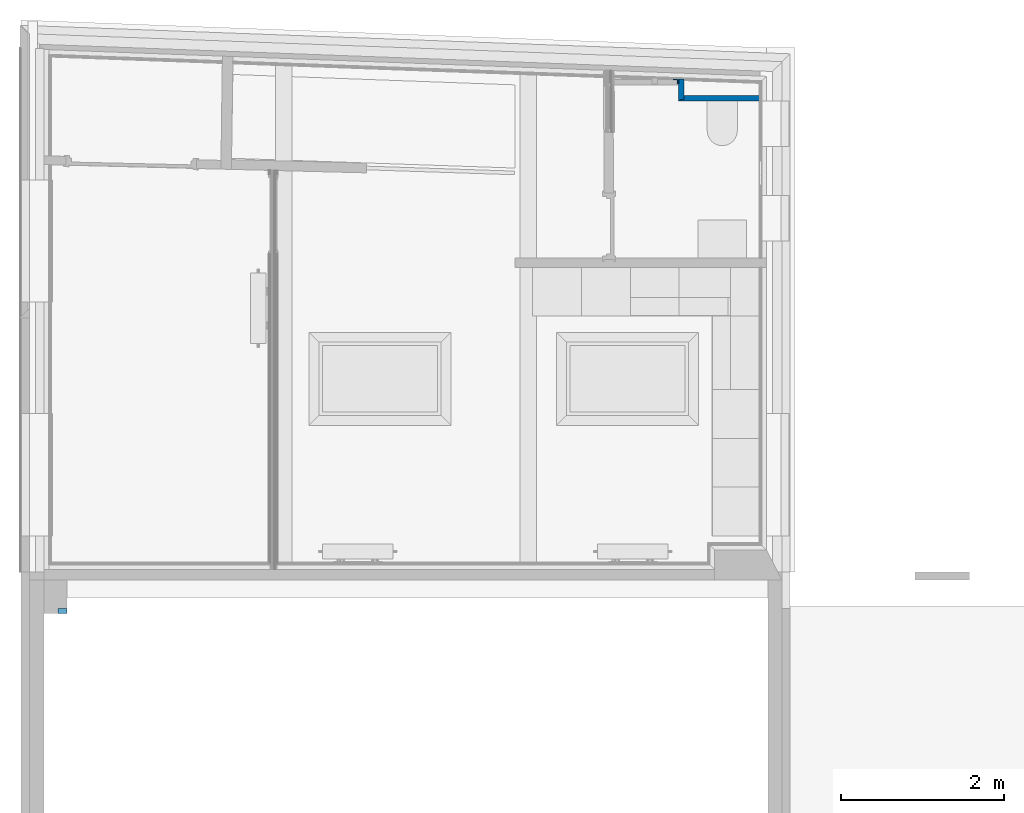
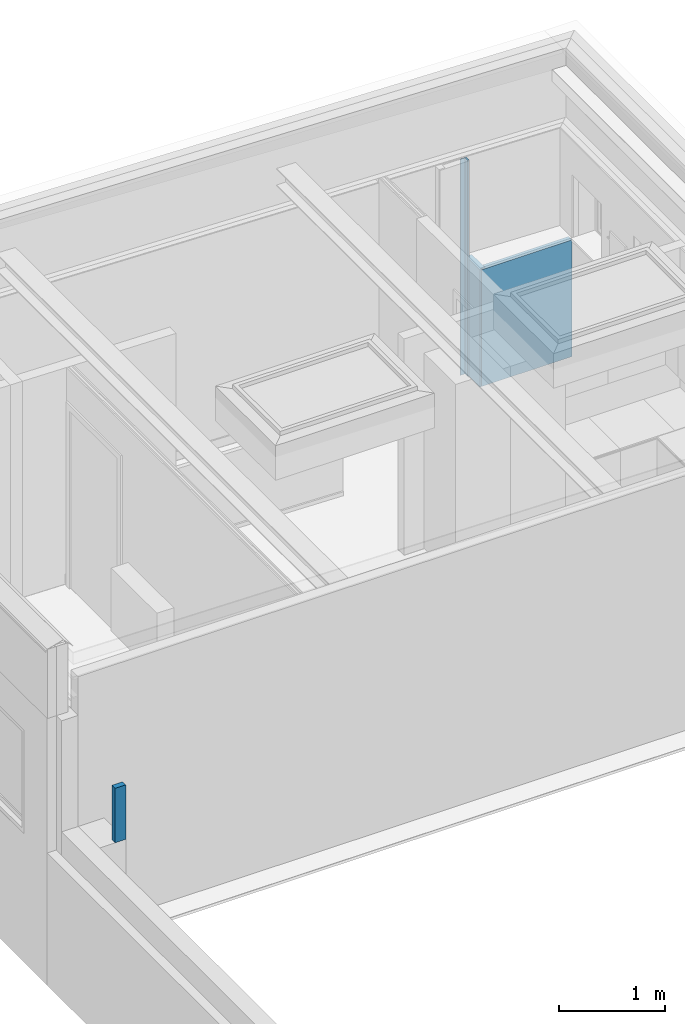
# One storey, part 6 of 23: 4 walls.
"""IFC2X3 building model written with IfcOpenShell, lengths in metres."""

from ifc_helpers import new_model, entity, si_unit, converted_unit, derived_unit, money_unit, direction, frame, frame_2d, origin_with_axes, place, context, subcontext, project, spatial, polyline, rectangle, outline, extrude, material, layer, layer_set, layer_usage, type_object, element, save


model = new_model("IFC2X3")

# Units and contexts
model_context = context("Model", 3, precision=1e-05, world=origin_with_axes(), true_north=direction((0.0, 1.0)))
body_context = subcontext(model_context, "Body", "Model", "MODEL_VIEW", scale=1.0)
ifc_project = project(units=[si_unit("LENGTHUNIT", "METRE"), si_unit("AREAUNIT", "SQUARE_METRE"), si_unit("VOLUMEUNIT", "CUBIC_METRE"), si_unit("ABSORBEDDOSEUNIT", "GRAY"), si_unit("AMOUNTOFSUBSTANCEUNIT", "MOLE"), si_unit("DOSEEQUIVALENTUNIT", "SIEVERT"), si_unit("ELECTRICCAPACITANCEUNIT", "FARAD"), si_unit("ELECTRICCHARGEUNIT", "COULOMB"), si_unit("ELECTRICCONDUCTANCEUNIT", "SIEMENS"), si_unit("ELECTRICCURRENTUNIT", "AMPERE"), si_unit("ELECTRICRESISTANCEUNIT", "OHM"), si_unit("ELECTRICVOLTAGEUNIT", "VOLT"), si_unit("ENERGYUNIT", "JOULE"), si_unit("FORCEUNIT", "NEWTON"), si_unit("FREQUENCYUNIT", "HERTZ"), si_unit("ILLUMINANCEUNIT", "LUX"), si_unit("INDUCTANCEUNIT", "HENRY"), si_unit("LUMINOUSFLUXUNIT", "LUMEN"), si_unit("LUMINOUSINTENSITYUNIT", "CANDELA"), si_unit("MAGNETICFLUXDENSITYUNIT", "TESLA"), si_unit("MAGNETICFLUXUNIT", "WEBER"), si_unit("MASSUNIT", "GRAM"), converted_unit("PLANEANGLEUNIT", "degree", entity("IfcReal", 0.0174532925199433), si_unit("PLANEANGLEUNIT", "RADIAN"), dimensions=[0, 0, 0, 0, 0, 0, 0]), si_unit("POWERUNIT", "WATT"), si_unit("PRESSUREUNIT", "PASCAL"), si_unit("RADIOACTIVITYUNIT", "BECQUEREL"), si_unit("SOLIDANGLEUNIT", "STERADIAN"), si_unit("THERMODYNAMICTEMPERATUREUNIT", "KELVIN"), si_unit("TIMEUNIT", "SECOND"), derived_unit("ACCELERATIONUNIT", [(si_unit("LENGTHUNIT", "METRE"), 1), (si_unit("TIMEUNIT", "SECOND"), -2)]), derived_unit("ANGULARVELOCITYUNIT", [(converted_unit("PLANEANGLEUNIT", "degree", entity("IfcReal", 0.0174532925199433), si_unit("PLANEANGLEUNIT", "RADIAN"), dimensions=[0, 0, 0, 0, 0, 0, 0]), 1), (si_unit("TIMEUNIT", "SECOND"), -1)]), derived_unit("CURVATUREUNIT", [(converted_unit("PLANEANGLEUNIT", "degree", entity("IfcReal", 0.0174532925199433), si_unit("PLANEANGLEUNIT", "RADIAN"), dimensions=[0, 0, 0, 0, 0, 0, 0]), 1), (si_unit("LENGTHUNIT", "METRE"), -1)]), derived_unit("DYNAMICVISCOSITYUNIT", [(si_unit("PRESSUREUNIT", "PASCAL"), 1), (si_unit("TIMEUNIT", "SECOND"), 1)]), derived_unit("HEATFLUXDENSITYUNIT", [(si_unit("POWERUNIT", "WATT"), 1), (si_unit("LENGTHUNIT", "METRE"), -2)]), derived_unit("HEATINGVALUEUNIT", [(si_unit("ENERGYUNIT", "JOULE"), 1), (si_unit("MASSUNIT", "GRAM"), -1)]), derived_unit("INTEGERCOUNTRATEUNIT", [(si_unit("TIMEUNIT", "SECOND"), -1)]), derived_unit("IONCONCENTRATIONUNIT", [(si_unit("MASSUNIT", "GRAM"), 1), (si_unit("VOLUMEUNIT", "CUBIC_METRE"), -1)]), derived_unit("ISOTHERMALMOISTURECAPACITYUNIT", [(si_unit("VOLUMEUNIT", "CUBIC_METRE"), 1), (si_unit("MASSUNIT", "GRAM"), -1)]), derived_unit("KINEMATICVISCOSITYUNIT", [(si_unit("AREAUNIT", "SQUARE_METRE"), 1), (si_unit("TIMEUNIT", "SECOND"), -1)]), derived_unit("LINEARFORCEUNIT", [(si_unit("FORCEUNIT", "NEWTON"), 1), (si_unit("LENGTHUNIT", "METRE"), -1)]), derived_unit("LINEARMOMENTUNIT", [(si_unit("FORCEUNIT", "NEWTON"), 1), (si_unit("LENGTHUNIT", "METRE"), -1)]), derived_unit("LINEARSTIFFNESSUNIT", [(si_unit("FORCEUNIT", "NEWTON"), 1), (si_unit("LENGTHUNIT", "METRE"), -1)]), derived_unit("LINEARVELOCITYUNIT", [(si_unit("LENGTHUNIT", "METRE"), 1), (si_unit("TIMEUNIT", "SECOND"), -1)]), derived_unit("LUMINOUSINTENSITYDISTRIBUTIONUNIT", [(si_unit("LUMINOUSINTENSITYUNIT", "CANDELA"), 1), (si_unit("LUMINOUSFLUXUNIT", "LUMEN"), -1)]), derived_unit("MASSDENSITYUNIT", [(si_unit("MASSUNIT", "GRAM"), 1), (si_unit("VOLUMEUNIT", "CUBIC_METRE"), -1)]), derived_unit("MASSFLOWRATEUNIT", [(si_unit("MASSUNIT", "GRAM"), 1), (si_unit("TIMEUNIT", "SECOND"), -1)]), derived_unit("MASSPERLENGTHUNIT", [(si_unit("MASSUNIT", "GRAM"), 1), (si_unit("LENGTHUNIT", "METRE"), -1)]), derived_unit("MODULUSOFELASTICITYUNIT", [(si_unit("FORCEUNIT", "NEWTON"), 1), (si_unit("AREAUNIT", "SQUARE_METRE"), -1)]), derived_unit("MODULUSOFLINEARSUBGRADEREACTIONUNIT", [(si_unit("FORCEUNIT", "NEWTON"), 1), (si_unit("LENGTHUNIT", "METRE"), -2)]), derived_unit("MODULUSOFROTATIONALSUBGRADEREACTIONUNIT", [(si_unit("FORCEUNIT", "NEWTON"), 1), (si_unit("LENGTHUNIT", "METRE"), 1)]), derived_unit("MODULUSOFSUBGRADEREACTIONUNIT", [(si_unit("FORCEUNIT", "NEWTON"), 1), (si_unit("VOLUMEUNIT", "CUBIC_METRE"), -1)]), derived_unit("MOISTUREDIFFUSIVITYUNIT", [(si_unit("VOLUMEUNIT", "CUBIC_METRE"), 1), (si_unit("TIMEUNIT", "SECOND"), -1)]), derived_unit("MOLECULARWEIGHTUNIT", [(si_unit("MASSUNIT", "GRAM"), 1), (si_unit("AMOUNTOFSUBSTANCEUNIT", "MOLE"), -1)]), derived_unit("PLANARFORCEUNIT", [(si_unit("FORCEUNIT", "NEWTON"), 1), (si_unit("LENGTHUNIT", "METRE"), -2)]), derived_unit("ROTATIONALFREQUENCYUNIT", [(si_unit("TIMEUNIT", "SECOND"), -1)]), derived_unit("ROTATIONALMASSUNIT", [(si_unit("MASSUNIT", "GRAM"), 1), (si_unit("LENGTHUNIT", "METRE"), 2)]), derived_unit("ROTATIONALSTIFFNESSUNIT", [(si_unit("FORCEUNIT", "NEWTON"), 1), (si_unit("LENGTHUNIT", "METRE"), 1), (converted_unit("PLANEANGLEUNIT", "degree", entity("IfcReal", 0.0174532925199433), si_unit("PLANEANGLEUNIT", "RADIAN"), dimensions=[0, 0, 0, 0, 0, 0, 0]), -1)]), derived_unit("SECTIONAREAINTEGRALUNIT", [(si_unit("LENGTHUNIT", "METRE"), 5)]), derived_unit("SECTIONMODULUSUNIT", [(si_unit("LENGTHUNIT", "METRE"), 3)]), derived_unit("SHEARMODULUSUNIT", [(si_unit("FORCEUNIT", "NEWTON"), 1), (si_unit("AREAUNIT", "SQUARE_METRE"), -1)]), derived_unit("SOUNDPOWERUNIT", [(si_unit("ENERGYUNIT", "JOULE"), 1), (si_unit("TIMEUNIT", "SECOND"), -1)]), derived_unit("SPECIFICHEATCAPACITYUNIT", [(si_unit("FORCEUNIT", "NEWTON"), 1), (si_unit("MASSUNIT", "GRAM"), -1), (si_unit("THERMODYNAMICTEMPERATUREUNIT", "KELVIN"), -1)]), derived_unit("TEMPERATUREGRADIENTUNIT", [(si_unit("THERMODYNAMICTEMPERATUREUNIT", "KELVIN"), 1), (si_unit("LENGTHUNIT", "METRE"), -1)]), derived_unit("THERMALADMITTANCEUNIT", [(si_unit("POWERUNIT", "WATT"), 1), (si_unit("AREAUNIT", "SQUARE_METRE"), -1), (si_unit("THERMODYNAMICTEMPERATUREUNIT", "KELVIN"), -1)]), derived_unit("THERMALCONDUCTANCEUNIT", [(si_unit("POWERUNIT", "WATT"), 1), (si_unit("LENGTHUNIT", "METRE"), -1), (si_unit("THERMODYNAMICTEMPERATUREUNIT", "KELVIN"), -1)]), derived_unit("THERMALEXPANSIONCOEFFICIENTUNIT", [(si_unit("THERMODYNAMICTEMPERATUREUNIT", "KELVIN"), -1)]), derived_unit("THERMALRESISTANCEUNIT", [(si_unit("AREAUNIT", "SQUARE_METRE"), 1), (si_unit("POWERUNIT", "WATT"), -1)]), derived_unit("THERMALTRANSMITTANCEUNIT", [(si_unit("POWERUNIT", "WATT"), 1), (si_unit("AREAUNIT", "SQUARE_METRE"), -1), (si_unit("THERMODYNAMICTEMPERATUREUNIT", "KELVIN"), -1)]), derived_unit("TORQUEUNIT", [(si_unit("FORCEUNIT", "NEWTON"), 1), (si_unit("LENGTHUNIT", "METRE"), 1)]), derived_unit("VAPORPERMEABILITYUNIT", [(si_unit("MASSUNIT", "GRAM"), 1), (si_unit("TIMEUNIT", "SECOND"), -1)]), derived_unit("VOLUMETRICFLOWRATEUNIT", [(si_unit("VOLUMEUNIT", "CUBIC_METRE"), 1), (si_unit("TIMEUNIT", "SECOND"), -1)]), derived_unit("WARPINGCONSTANTUNIT", [(si_unit("LENGTHUNIT", "METRE"), 6)]), derived_unit("WARPINGMOMENTUNIT", [(si_unit("FORCEUNIT", "NEWTON"), 1), (si_unit("LENGTHUNIT", "METRE"), 2)]), money_unit("GBP")], contexts=[model_context])

# Site, building, storey
site_placement = place(None, origin_with_axes())
site = spatial("IfcSite", under=ifc_project, at=site_placement, Name="Site", CompositionType="ELEMENT")
building_placement = place(site_placement, origin_with_axes())
building = spatial("IfcBuilding", under=site, at=building_placement, Name="Building01", CompositionType="ELEMENT")
storey_placement = place(building_placement, frame((0.0, 0.0, 2.6), z_axis=(0.0, 0.0, 1.0), x_axis=(1.0, 0.0, 0.0)))
storey = spatial("IfcBuildingStorey", under=building, at=storey_placement, Name="MF", CompositionType="ELEMENT", Elevation=2.6)

# Walls
ifc_material_1 = material(Name="A_BSUK_WallsExternal_Block")
ifc_layer_1 = layer(ifc_material_1, 0.115702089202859, ventilated=False)
ifc_layer_set_1 = layer_set([ifc_layer_1])
ifc_layer_usage_1 = layer_usage(ifc_layer_set_1, "AXIS2", "POSITIVE", 0.0)
wall_type_1 = type_object("IfcWallType", Name="A-Walls-ExternalBlock", PredefinedType="NOTDEFINED")
wall_1_placement = place(storey_placement, frame((0.565702, 14.389942, 1.8), z_axis=(0.0, 0.0, 1.0), x_axis=(0.0, 1.0, 0.0)))
element("IfcWallStandardCase", 1, at=wall_1_placement, inside=storey, type_object=wall_type_1, material=ifc_layer_usage_1, Name="A-Walls-ExternalBlock", ObjectType="A-Walls-ExternalBlock", context=body_context, shape_type="SweptSolid", body=[
    extrude(rectangle(XDim=0.060058, YDim=0.115702, at=frame_2d((0.030029, 0.057851), x_axis=(1.0, 0.0))), origin_with_axes(), (0.0, 0.0, 1.0), 0.63),
])
ifc_material_2 = material(Name="A_BSUK_OpeningsClearance")
ifc_layer_2 = layer(ifc_material_2, 0.05, ventilated=False)
ifc_material_3 = material(Name="A_BSUK_Walls_Timber")
ifc_layer_3 = layer(ifc_material_3, 0.015, ventilated=False)
ifc_layer_set_2 = layer_set([ifc_layer_2, ifc_layer_3])
ifc_layer_usage_2 = layer_usage(ifc_layer_set_2, "AXIS2", "POSITIVE", 0.0)
wall_type_2 = type_object("IfcWallType", Name="SHE_A-Walls_Type05c_PreWallShell_65mm", PredefinedType="NOTDEFINED")
wall_2_placement = place(storey_placement, frame((8.009417, 20.948792, 0.585), z_axis=(0.0, 0.0, 1.0), x_axis=(0.0, -1.0, 0.0)))
element("IfcWallStandardCase", 2, at=wall_2_placement, inside=storey, type_object=wall_type_2, material=ifc_layer_usage_2, Name="5C", ObjectType="SHE_A-Walls_Type05c_PreWallShell_65mm", context=body_context, shape_type="SweptSolid", body=[
    extrude(outline(polyline([(0.004682, 0.05), (0.054682, 0.05), (0.054682, 0.065), (0.002411, 0.065), (0.0, 0.0), (0.004682, 0.0), (0.004682, 0.05)])), origin_with_axes(), (0.0, 0.0, 1.0), 2.5),
])
wall_3_placement = place(storey_placement, frame((9.082265, 20.748903, 0.585), z_axis=(0.0, 0.0, 1.0), x_axis=(-1.0, 0.0, 0.0)))
element("IfcWallStandardCase", 3, at=wall_3_placement, inside=storey, type_object=wall_type_2, material=ifc_layer_usage_2, Name="5C", ObjectType="SHE_A-Walls_Type05c_PreWallShell_65mm", context=body_context, shape_type="SweptSolid", body=[
    extrude(outline(polyline([(0.942848, 0.05), (0.992848, 0.05), (0.992848, 0.065), (0.0, 0.065), (0.0, 0.0), (0.942848, 0.0), (0.942848, 0.05)])), origin_with_axes(), (0.0, 0.0, 1.0), 1.35),
])
wall_4_placement = place(storey_placement, frame((8.139417, 20.698903, 0.585), z_axis=(0.0, 0.0, 1.0), x_axis=(0.0, 1.0, 0.0)))
element("IfcWallStandardCase", 4, at=wall_4_placement, inside=storey, type_object=wall_type_2, material=ifc_layer_usage_2, Name="5C", ObjectType="SHE_A-Walls_Type05c_PreWallShell_65mm", context=body_context, shape_type="SweptSolid", body=[
    extrude(outline(polyline([(0.255048, 0.065), (-0.015, 0.065), (-0.015, 0.05), (0.0, 0.05), (0.0, 0.0), (0.252637, 0.0), (0.255048, 0.065)])), origin_with_axes(), (0.0, 0.0, 1.0), 1.35),
])

save(model, "model.ifc")
